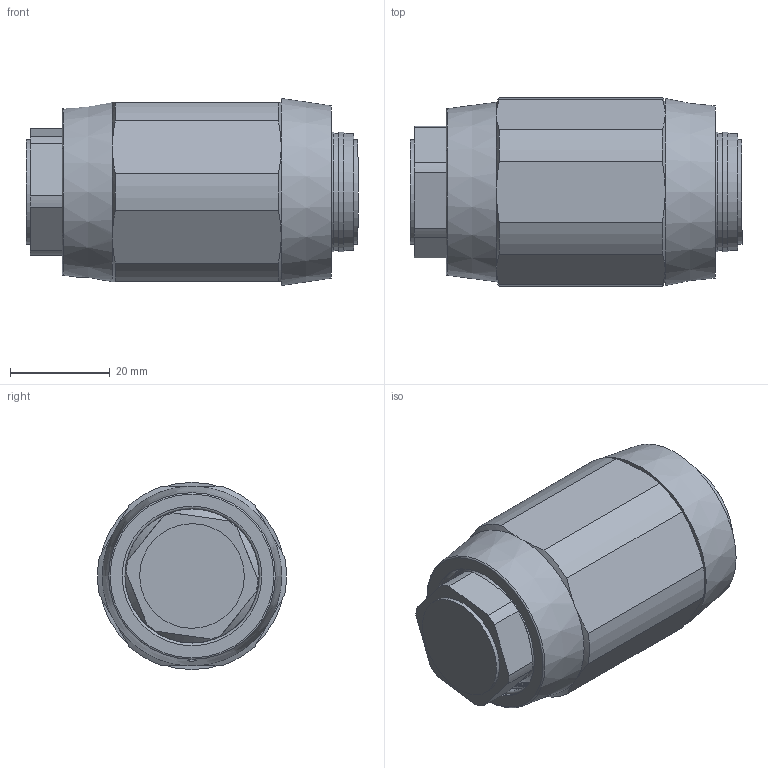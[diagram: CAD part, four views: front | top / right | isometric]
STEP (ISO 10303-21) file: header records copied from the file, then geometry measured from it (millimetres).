
FILE_DESCRIPTION(/* description */ (''),/* implementation_level */ '2;1');
FILE_NAME(/* name */ 'MK8G.stp',/* time_stamp */ '2024-04-16T14:25:11+08:00',/* author */ (''),/* organization */ (''),/* preprocessor_version */ 'ST-DEVELOPER v16.7',/* originating_system */ 'SIEMENS PLM Software NX 12.0',/* authorisation */ '');
FILE_SCHEMA (('AUTOMOTIVE_DESIGN { 1 0 10303 214 3 1 1 1 }'));
Length unit declared in the file: millimetre
Products named in the file (1): MK8G
Bounding box: 66.68 x 37.92 x 37.6 mm (x, y, z)
Volume: 48298.2 mm3; surface area: 32401.9 mm2
Topology: 14 solids, 14 shells, 947 faces, 2646 edges, 1713 vertices
Faces by surface type: plane 500, cylinder 343, cone 52, torus 22, sphere 16, bspline 12, revolution 2
Full cylindrical faces by diameter (mm): 2 x1, 2.5 x16, 4 x4, 7 x1, 7.5 x1, 8 x1, 9 x1, 11.2 x1, 11.5 x1, 12.5 x1, 13.9 x1, 14 x5, 14.28 x2, 15.96 x2, 16.6 x13, 21 x2, 22.1 x4, 23 x1, 23.5 x4, 24 x5, 25 x8, 27 x1, 28 x1, 28.6 x1, 30.6 x1, 31.6 x1
Entity records: 38620 total; most frequent: CARTESIAN_POINT 16621, ORIENTED_EDGE 4862, DIRECTION 4024, EDGE_CURVE 2431, VERTEX_POINT 1650, AXIS2_PLACEMENT_3D 1636, EDGE_LOOP 1106, B_SPLINE_CURVE_WITH_KNOTS 949
